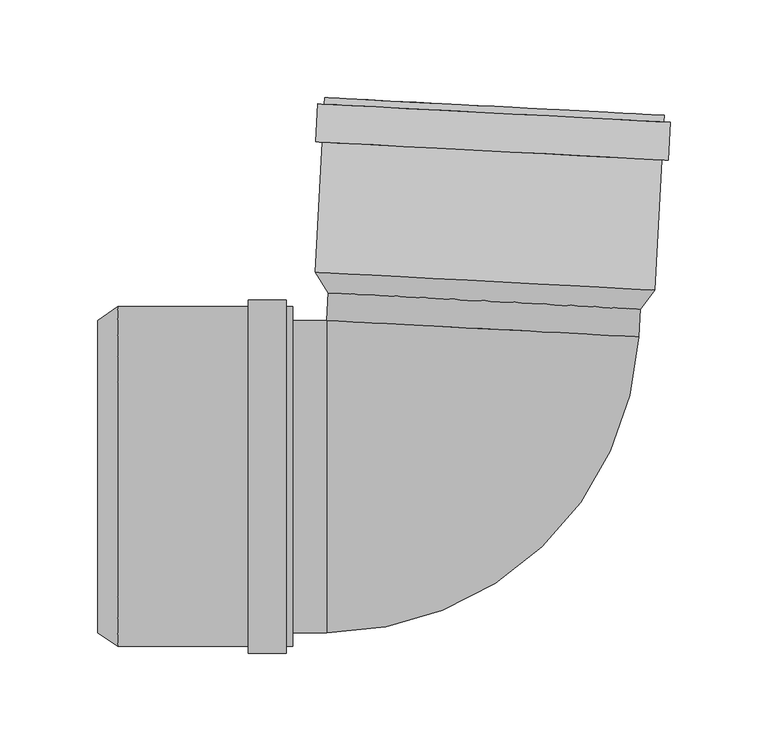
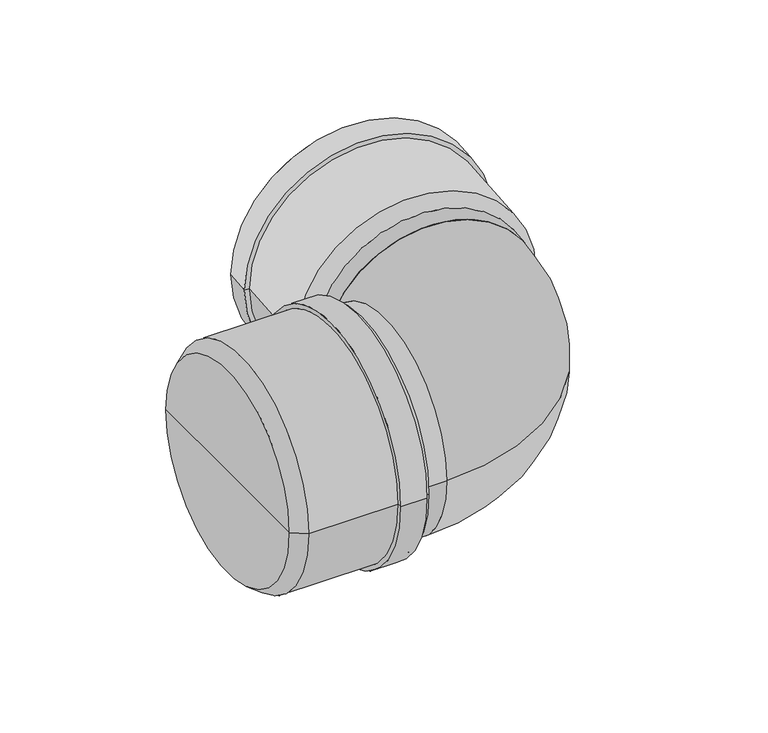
"""IFC4 building model written with IfcOpenShell, lengths in millimetres: pipe fitting geometry, pf_HTB : pf_HTB."""

from ifc_helpers import new_model, si_unit, point, frame, origin, origin_2d, place, context, project, spatial, polyline, circle_curve, ellipse_curve, trimmed, segment, composite_curve, outline, extrude, source, transform, mapped, element, save
from ifc_brep_helpers import plane_surface, cylinder_surface, revolved_surface, advanced_brep


def pipe_fitting_a6e2fb77(model_context):
    return source(origin(), model_context, "Body", "SolidModel", [
        advanced_brep(
        [(84.6005988, 85.6897816, 0.0), (-75.1801267, 94.0635346, 0.0), (-81.7313361, 104.7210041, 0.0), (92.2299289, 95.6040805, 0.0), (4.7102361, 89.8766581, 0.0), (96.9244642, 185.1811498, 0.0), (-77.0368008, 194.2980734, 0.0), (-69.9465311, 193.9264881, 0.0), (89.8341945, 185.5527351, 0.0), (96.7465219, 181.7858094, 0.0), (-77.214743, 190.902733, 0.0), (100.1418623, 181.6078671, 0.0), (-80.6100835, 191.0806752, 0.0), (99.1213112, 162.1345912, 0.0), (-81.6306346, 171.6073993, 0.0), (95.7259708, 162.3125335, 0.0), (-78.2352942, 171.429457, 0.0), (85.1396592, 95.9756658, 0.0), (-74.6410664, 104.3494188, 0.0), (5.2492964, 100.1625423, 0.0)],
        [
            (0, 1, circle_curve(frame((4.7102361, 89.8766581, 0.0), z_axis=(0.05233595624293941, 0.9986295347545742, 0.0), x_axis=(-0.9986295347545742, 0.05233595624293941, 0.0)), 80.0)),
            (1, 2),
            (2, 3, circle_curve(frame((5.2492964, 100.1625423, 0.0), z_axis=(-0.05233595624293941, -0.9986295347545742, 0.0), x_axis=(-0.9986295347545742, 0.05233595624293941, 0.0)), 87.1)),
            (3, 0),
            (1, 0, circle_curve(frame((4.7102361, 89.8766581, 0.0), z_axis=(0.05233595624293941, 0.9986295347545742, 0.0), x_axis=(-0.9986295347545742, 0.05233595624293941, 0.0)), 80.0)),
            (3, 2, circle_curve(frame((5.2492964, 100.1625423, 0.0), z_axis=(-0.05233595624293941, -0.9986295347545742, 0.0), x_axis=(-0.9986295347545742, 0.05233595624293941, 0.0)), 87.1)),
            (4, 1),
            (0, 4),
            (5, 6, circle_curve(frame((9.9438317, 189.7396116, 0.0), z_axis=(0.05233595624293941, 0.9986295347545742, 0.0), x_axis=(-0.9986295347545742, 0.05233595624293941, 0.0)), 87.1)),
            (6, 7),
            (7, 8, circle_curve(frame((9.9438317, 189.7396116, 0.0), z_axis=(-0.05233595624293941, -0.9986295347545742, 0.0), x_axis=(-0.9986295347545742, 0.05233595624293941, 0.0)), 80.0)),
            (8, 5),
            (6, 5, circle_curve(frame((9.9438317, 189.7396116, 0.0), z_axis=(0.05233595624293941, 0.9986295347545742, 0.0), x_axis=(-0.9986295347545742, 0.05233595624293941, 0.0)), 87.1)),
            (8, 7, circle_curve(frame((9.9438317, 189.7396116, 0.0), z_axis=(-0.05233595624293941, -0.9986295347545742, 0.0), x_axis=(-0.9986295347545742, 0.05233595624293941, 0.0)), 80.0)),
            (9, 10, circle_curve(frame((9.7658894, 186.3442712, 0.0), z_axis=(0.05233595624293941, 0.9986295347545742, 0.0), x_axis=(-0.9986295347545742, 0.05233595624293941, 0.0)), 87.1)),
            (10, 6),
            (5, 9),
            (10, 9, circle_curve(frame((9.7658894, 186.3442712, 0.0), z_axis=(0.05233595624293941, 0.9986295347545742, 0.0), x_axis=(-0.9986295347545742, 0.05233595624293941, 0.0)), 87.1)),
            (11, 12, circle_curve(frame((9.7658894, 186.3442712, 0.0), z_axis=(0.05233595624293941, 0.9986295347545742, 0.0), x_axis=(-0.9986295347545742, 0.05233595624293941, 0.0)), 90.5)),
            (12, 10),
            (9, 11),
            (12, 11, circle_curve(frame((9.7658894, 186.3442712, 0.0), z_axis=(0.05233595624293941, 0.9986295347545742, 0.0), x_axis=(-0.9986295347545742, 0.05233595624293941, 0.0)), 90.5)),
            (13, 14, circle_curve(frame((8.7453383, 166.8709953, 0.0), z_axis=(0.05233595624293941, 0.9986295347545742, 0.0), x_axis=(-0.9986295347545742, 0.05233595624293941, 0.0)), 90.5)),
            (14, 12),
            (11, 13),
            (14, 13, circle_curve(frame((8.7453383, 166.8709953, 0.0), z_axis=(0.05233595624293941, 0.9986295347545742, 0.0), x_axis=(-0.9986295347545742, 0.05233595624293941, 0.0)), 90.5)),
            (15, 16, circle_curve(frame((8.7453383, 166.8709953, 0.0), z_axis=(0.05233595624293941, 0.9986295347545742, 0.0), x_axis=(-0.9986295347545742, 0.05233595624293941, 0.0)), 87.1)),
            (16, 14),
            (13, 15),
            (16, 15, circle_curve(frame((8.7453383, 166.8709953, 0.0), z_axis=(0.05233595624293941, 0.9986295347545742, 0.0), x_axis=(-0.9986295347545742, 0.05233595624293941, 0.0)), 87.1)),
            (2, 16),
            (15, 3),
            (17, 18, circle_curve(frame((5.2492964, 100.1625423, 0.0), z_axis=(0.05233595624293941, 0.9986295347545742, 0.0), x_axis=(-0.9986295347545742, 0.05233595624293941, 0.0)), 80.0)),
            (18, 19),
            (19, 17),
            (18, 17, circle_curve(frame((5.2492964, 100.1625423, 0.0), z_axis=(0.05233595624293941, 0.9986295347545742, 0.0), x_axis=(-0.9986295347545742, 0.05233595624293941, 0.0)), 80.0)),
            (7, 18),
            (17, 8),
        ],
        [
            revolved_surface(polyline([(-81.7313361, 104.7210041, 0.0), (-75.1801267, 94.0635346, 0.0)]), (4.7102361, 89.8766581, 0.0), (-0.05233595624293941, -0.9986295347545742, 0.0)),
            plane_surface(frame((4.7102361, 89.8766581, 0.0), z_axis=(-0.05233595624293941, -0.9986295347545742, 0.0), x_axis=(-0.9986295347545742, 0.05233595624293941, 0.0))),
            plane_surface(frame((9.9438317, 189.7396116, 0.0), z_axis=(0.05233595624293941, 0.9986295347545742, 0.0), x_axis=(-0.9986295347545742, 0.05233595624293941, 0.0))),
            cylinder_surface(frame((4.7102361, 89.8766581, 0.0), z_axis=(-0.05233595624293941, -0.9986295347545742, 0.0), x_axis=(-0.9986295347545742, 0.05233595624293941, 0.0)), 87.1),
            plane_surface(frame((9.7658894, 186.3442712, 0.0), z_axis=(0.05233595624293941, 0.9986295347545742, 0.0), x_axis=(-0.9986295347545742, 0.05233595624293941, 0.0))),
            cylinder_surface(frame((4.7102361, 89.8766581, 0.0), z_axis=(-0.05233595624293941, -0.9986295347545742, 0.0), x_axis=(-0.9986295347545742, 0.05233595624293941, 0.0)), 90.5),
            plane_surface(frame((8.7453383, 166.8709953, 0.0), z_axis=(-0.05233595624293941, -0.9986295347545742, 0.0), x_axis=(-0.9986295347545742, 0.05233595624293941, 0.0))),
            plane_surface(frame((5.2492964, 100.1625423, 0.0), z_axis=(0.05233595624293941, 0.9986295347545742, 0.0), x_axis=(-0.9986295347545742, 0.05233595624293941, 0.0))),
            revolved_surface(polyline([(-74.6410663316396, 104.34941879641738, 0.0), (-69.94653105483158, 193.9264880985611, 0.0)]), (4.7102361, 89.8766581, 0.0), (-0.05233595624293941, -0.9986295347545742, 0.0)),
        ],
        [
            (0, [[1, 2, 3, 4]]),
            (0, [[5, -4, 6, -2]]),
            (1, [[7, -1, 8]]),
            (1, [[-8, -5, -7]]),
            (2, [[9, 10, 11, 12]]),
            (2, [[13, -12, 14, -10]]),
            (3, [[15, 16, -9, 17]]),
            (3, [[18, -17, -13, -16]]),
            (4, [[19, 20, -15, 21]]),
            (4, [[22, -21, -18, -20]]),
            (5, [[23, 24, -19, 25]]),
            (5, [[26, -25, -22, -24]]),
            (6, [[27, 28, -23, 29]]),
            (6, [[30, -29, -26, -28]]),
            (3, [[-3, 31, -27, 32]]),
            (3, [[-6, -32, -30, -31]]),
            (7, [[33, 34, 35]]),
            (7, [[36, -35, -34]]),
            (8, [[-11, 37, -33, 38]]),
            (8, [[-14, -38, -36, -37]]),
        ],
    ),
        advanced_brep(
        [(-193.3, -80.0, 0.0), (-193.3, 80.0, 0.0), (-183.0, 87.1, 0.0), (-183.0, -87.1, 0.0), (-193.3, 0.0, 0.0), (-93.3, -87.1, 0.0), (-93.3, 87.1, 0.0), (-93.3, 80.0, 0.0), (-93.3, -80.0, 0.0), (-96.7, -87.1, 0.0), (-96.7, 87.1, 0.0), (-96.7, -90.5, 0.0), (-96.7, 90.5, 0.0), (-116.2, -90.5, 0.0), (-116.2, 90.5, 0.0), (-116.2, -87.1, 0.0), (-116.2, 87.1, 0.0), (-183.0, -80.0, 0.0), (-183.0, 80.0, 0.0), (-183.0, 0.0, 0.0)],
        [
            (0, 1, circle_curve(frame((-193.3, 0.0, 0.0), z_axis=(1.0, 0.0, 0.0), x_axis=(0.0, 1.0, 0.0)), 80.0)),
            (1, 2),
            (2, 3, circle_curve(frame((-183.0, 0.0, 0.0), z_axis=(-1.0, 0.0, 0.0), x_axis=(0.0, 1.0, 0.0)), 87.1)),
            (3, 0),
            (1, 0, circle_curve(frame((-193.3, 0.0, 0.0), z_axis=(1.0, 0.0, 0.0), x_axis=(0.0, 1.0, 0.0)), 80.0)),
            (3, 2, circle_curve(frame((-183.0, 0.0, 0.0), z_axis=(-1.0, 0.0, 0.0), x_axis=(0.0, 1.0, 0.0)), 87.1)),
            (4, 1),
            (0, 4),
            (5, 6, circle_curve(frame((-93.3, 0.0, 0.0), z_axis=(1.0, 0.0, 0.0), x_axis=(0.0, 1.0, 0.0)), 87.1)),
            (6, 7),
            (7, 8, circle_curve(frame((-93.3, 0.0, 0.0), z_axis=(-1.0, 0.0, 0.0), x_axis=(0.0, 1.0, 0.0)), 80.0)),
            (8, 5),
            (6, 5, circle_curve(frame((-93.3, 0.0, 0.0), z_axis=(1.0, 0.0, 0.0), x_axis=(0.0, 1.0, 0.0)), 87.1)),
            (8, 7, circle_curve(frame((-93.3, 0.0, 0.0), z_axis=(-1.0, 0.0, 0.0), x_axis=(0.0, 1.0, 0.0)), 80.0)),
            (9, 10, circle_curve(frame((-96.7, 0.0, 0.0), z_axis=(1.0, 0.0, 0.0), x_axis=(0.0, 1.0, 0.0)), 87.1)),
            (10, 6),
            (5, 9),
            (10, 9, circle_curve(frame((-96.7, 0.0, 0.0), z_axis=(1.0, 0.0, 0.0), x_axis=(0.0, 1.0, 0.0)), 87.1)),
            (11, 12, circle_curve(frame((-96.7, 0.0, 0.0), z_axis=(1.0, 0.0, 0.0), x_axis=(0.0, 1.0, 0.0)), 90.5)),
            (12, 10),
            (9, 11),
            (12, 11, circle_curve(frame((-96.7, 0.0, 0.0), z_axis=(1.0, 0.0, 0.0), x_axis=(0.0, 1.0, 0.0)), 90.5)),
            (13, 14, circle_curve(frame((-116.2, 0.0, 0.0), z_axis=(1.0, 0.0, 0.0), x_axis=(0.0, 1.0, 0.0)), 90.5)),
            (14, 12),
            (11, 13),
            (14, 13, circle_curve(frame((-116.2, 0.0, 0.0), z_axis=(1.0, 0.0, 0.0), x_axis=(0.0, 1.0, 0.0)), 90.5)),
            (15, 16, circle_curve(frame((-116.2, 0.0, 0.0), z_axis=(1.0, 0.0, 0.0), x_axis=(0.0, 1.0, 0.0)), 87.1)),
            (16, 14),
            (13, 15),
            (16, 15, circle_curve(frame((-116.2, 0.0, 0.0), z_axis=(1.0, 0.0, 0.0), x_axis=(0.0, 1.0, 0.0)), 87.1)),
            (2, 16),
            (15, 3),
            (17, 18, circle_curve(frame((-183.0, 0.0, 0.0), z_axis=(1.0, 0.0, 0.0), x_axis=(0.0, 1.0, 0.0)), 80.0)),
            (18, 19),
            (19, 17),
            (18, 17, circle_curve(frame((-183.0, 0.0, 0.0), z_axis=(1.0, 0.0, 0.0), x_axis=(0.0, 1.0, 0.0)), 80.0)),
            (7, 18),
            (17, 8),
        ],
        [
            revolved_surface(polyline([(-183.0, 87.1, 0.0), (-193.3, 80.0, 0.0)]), (-193.3, 0.0, 0.0), (-1.0, 0.0, 0.0)),
            plane_surface(frame((-193.3, 0.0, 0.0), z_axis=(-1.0, 0.0, 0.0), x_axis=(0.0, 1.0, 0.0))),
            plane_surface(frame((-93.3, 0.0, 0.0), z_axis=(1.0, 0.0, 0.0), x_axis=(0.0, 1.0, 0.0))),
            cylinder_surface(frame((-193.3, 0.0, 0.0), z_axis=(-1.0, 0.0, 0.0), x_axis=(0.0, 1.0, 0.0)), 87.1),
            plane_surface(frame((-96.7, 0.0, 0.0), z_axis=(1.0, 0.0, 0.0), x_axis=(0.0, 1.0, 0.0))),
            cylinder_surface(frame((-193.3, 0.0, 0.0), z_axis=(-1.0, 0.0, 0.0), x_axis=(0.0, 1.0, 0.0)), 90.5),
            plane_surface(frame((-116.2, 0.0, 0.0), z_axis=(-1.0, 0.0, 0.0), x_axis=(0.0, 1.0, 0.0))),
            plane_surface(frame((-183.0, 0.0, 0.0), z_axis=(1.0, 0.0, 0.0), x_axis=(0.0, 1.0, 0.0))),
            revolved_surface(polyline([(-183.0, 80.0, 0.0), (-93.3, 80.0, 0.0)]), (-193.3, 0.0, 0.0), (-1.0, 0.0, 0.0)),
        ],
        [
            (0, [[1, 2, 3, 4]]),
            (0, [[5, -4, 6, -2]]),
            (1, [[7, -1, 8]]),
            (1, [[-8, -5, -7]]),
            (2, [[9, 10, 11, 12]]),
            (2, [[13, -12, 14, -10]]),
            (3, [[15, 16, -9, 17]]),
            (3, [[18, -17, -13, -16]]),
            (4, [[19, 20, -15, 21]]),
            (4, [[22, -21, -18, -20]]),
            (5, [[23, 24, -19, 25]]),
            (5, [[26, -25, -22, -24]]),
            (6, [[27, 28, -23, 29]]),
            (6, [[30, -29, -26, -28]]),
            (3, [[-3, 31, -27, 32]]),
            (3, [[-6, -32, -30, -31]]),
            (7, [[33, 34, 35]]),
            (7, [[36, -35, -34]]),
            (8, [[-11, 37, -33, 38]]),
            (8, [[-14, -38, -36, -37]]),
        ],
    ),
        extrude(outline(composite_curve([segment(trimmed(circle_curve(origin_2d(), 80.0), [point((0.0, -79.9999999))], [point((0.0, 80.0))], False, "CARTESIAN"), True, "CONTINUOUS"), segment(trimmed(circle_curve(origin_2d(), 80.0), [point((0.0, 80.0))], [point((0.0, -79.9999999))], False, "CARTESIAN"), True, "CONTINUOUS")], self_intersect=False)), frame((3.9731974, 75.8131235, 0.0), z_axis=(0.05233595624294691, 0.9986295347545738, 0.0), x_axis=(0.0, 0.0, 1.0)), (0.0, 0.0, 1.0), 24.3828347),
        extrude(outline(composite_curve([segment(trimmed(circle_curve(origin_2d(), 80.0), [point((-80.0, 0.0))], [point((80.0, 0.0))], False, "CARTESIAN"), True, "CONTINUOUS"), segment(trimmed(circle_curve(origin_2d(), 80.0), [point((80.0, 0.0))], [point((-80.0, 0.0))], False, "CARTESIAN"), True, "CONTINUOUS")], self_intersect=False)), frame((-183.0, 0.0, 0.0), z_axis=(1.0, 0.0, 0.0), x_axis=(0.0, 1.0, 0.0)), (0.0, 0.0, 1.0), 107.0828347),
        advanced_brep(
        [(-75.9171653, -80.0, 0.0), (-75.9171653, 80.0, 0.0), (83.8635602, 71.626247, 0.0)],
        [
            (0, 1, circle_curve(frame((-75.9171653, 0.0, 0.0), z_axis=(-1.0, 0.0, 0.0), x_axis=(0.0, 1.0, 0.0)), 80.0)),
            (1, 0, circle_curve(frame((-75.9171653, 0.0, 0.0), z_axis=(-1.0, 0.0, 0.0), x_axis=(0.0, 1.0, 0.0)), 80.0)),
            (2, 1, circle_curve(frame((3.9731974, 75.8131235, 0.0), z_axis=(0.05233595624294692, 0.9986295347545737, 0.0), x_axis=(-0.9986295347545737, 0.05233595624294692, 0.0)), 80.0)),
            (1, 2, circle_curve(frame((3.9731974, 75.8131235, 0.0), z_axis=(0.05233595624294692, 0.9986295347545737, 0.0), x_axis=(-0.9986295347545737, 0.05233595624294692, 0.0)), 80.0)),
            (2, 0, circle_curve(frame((-75.9171653, 80.0, 0.0), z_axis=(0.0, 0.0, -1.0), x_axis=(0.0, -1.0, 0.0)), 160.0)),
        ],
        [
            plane_surface(frame((-75.9171653, 80.0, -14.8), z_axis=(-1.0, 0.0, 0.0), x_axis=(0.0, -1.0, 0.0))),
            plane_surface(frame((-75.9171653, 80.0, -14.8), z_axis=(0.052335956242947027, 0.9986295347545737, 0.0), x_axis=(0.9986295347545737, -0.052335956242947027, 0.0))),
            revolved_surface(trimmed(ellipse_curve(frame((-75.9171653, 0.0, 0.0), z_axis=(1.0, 0.0, 0.0), x_axis=(0.0, 1.0, 0.0)), 80.0, 80.0), [point((-75.9171653, -80.0, 0.0))], [point((-75.9171653, 80.0, 0.0))], True, "CARTESIAN"), (-75.9171653, 80.0, -14.8), (0.0, 0.0, -1.0)),
            revolved_surface(trimmed(ellipse_curve(frame((-75.9171653, 0.0, 0.0), z_axis=(1.0, 0.0, 0.0), x_axis=(0.0, 1.0, 0.0)), 80.0, 80.0), [point((-75.9171653, 80.0, 0.0))], [point((-75.9171653, -80.0, 0.0))], True, "CARTESIAN"), (-75.9171653, 80.0, -14.8), (0.0, 0.0, -1.0)),
        ],
        [
            (0, [[1, 2]]),
            (1, [[3, 4]]),
            (2, [[5, -2, -3]]),
            (3, [[-1, -5, -4]]),
        ],
    ),
    ])


if __name__ == "__main__":
    model = new_model("IFC4")
    model_context = context("Model", 3, world=origin())
    ifc_project = project(units=[si_unit("LENGTHUNIT", "METRE", prefix="MILLI")], contexts=[model_context])
    site = spatial("IfcSite", under=ifc_project)
    building = spatial("IfcBuilding", under=site)
    placement = place(None, origin())
    pipe_fitting_shape = pipe_fitting_a6e2fb77(model_context)
    element("IfcPipeFitting", 1, ObjectType="pf_HTB : pf_HTB", at=placement, inside=building, context=model_context, shape_type="MappedRepresentation", body=[
        mapped(pipe_fitting_shape, transform((0.0, 0.0, 0.0), x_axis=(1.0, 0.0, 0.0), y_axis=(0.0, 1.0, 0.0), z_axis=(0.0, 0.0, 1.0))),
    ])
    save(model, "model.ifc")
